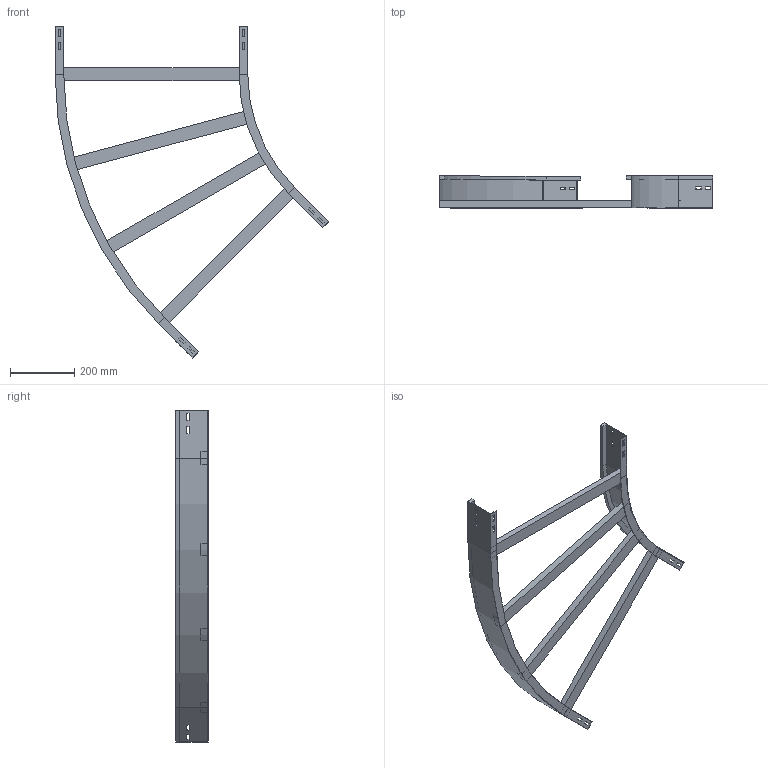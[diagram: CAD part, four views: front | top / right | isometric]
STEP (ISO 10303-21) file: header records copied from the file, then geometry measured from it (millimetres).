
FILE_DESCRIPTION (( 'STEP AP214' ), '1' );
FILE_NAME ('11B5D600.step', '2025-02-21T15:11:56', ( '' ), ( '' ), 'SwSTEP 2.0', 'SolidWorks 2023', '' );
FILE_SCHEMA (( 'AUTOMOTIVE_DESIGN' ));
Length unit declared in the file: millimetre
Products named in the file (4): TRAVERSINO_600; 11B5D600; A2_LONGH.INTERNO 45°_H100_R500; A2_LONGH.ESTERNO 45°_H100_R500+600
Assembly tree (6 placements, depth 2):
  11B5D600
    A2_LONGH.INTERNO 45°_H100_R500
    A2_LONGH.ESTERNO 45°_H100_R500+600
    TRAVERSINO_600  x4
Bounding box: 852.51 x 100 x 1033.88 mm (x, y, z)
Volume: 2746745.6 mm3; surface area: 824638.2 mm2
Topology: 6 solids, 6 shells, 140 faces, 352 edges, 224 vertices
Faces by surface type: plane 132, cylinder 8
Entity records: 3829 total; most frequent: CARTESIAN_POINT 647, ORIENTED_EDGE 632, DIRECTION 594, EDGE_CURVE 316, LINE 300, VECTOR 300, VERTEX_POINT 200, EDGE_LOOP 154
